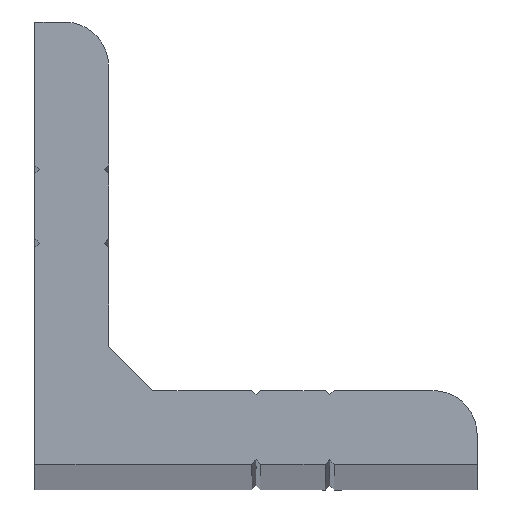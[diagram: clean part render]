
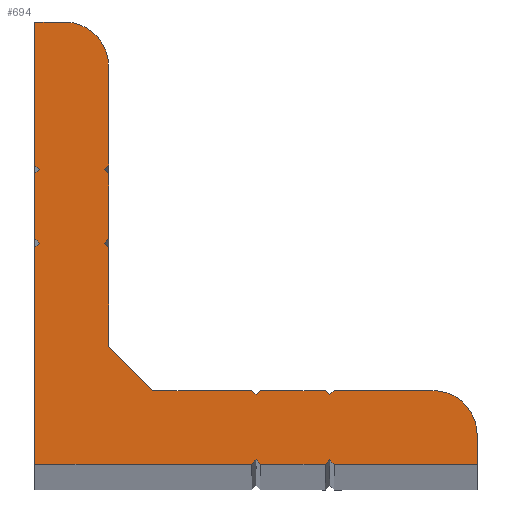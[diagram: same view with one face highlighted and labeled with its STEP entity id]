
A CAD part, top view. The second image highlights one B-rep face of the part: STEP entity #694.
In plain terms, the highlighted planar face has unit normal (0, 0, 1).
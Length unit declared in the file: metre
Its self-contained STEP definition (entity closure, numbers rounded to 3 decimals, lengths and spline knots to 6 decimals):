
#14=CIRCLE('',#726,0.003);
#16=CIRCLE('',#732,0.003);
#38=FACE_OUTER_BOUND('',#73,.T.);
#73=EDGE_LOOP('',(#546,#547,#548,#549,#550,#551,#552,#553,#554,#555,#556,
#557,#558,#559,#560,#561,#562,#563,#564,#565,#566,#567,#568,#569,#570,#571,
#572,#573,#574,#575,#576,#577,#578));
#90=LINE('',#932,#185);
#94=LINE('',#941,#189);
#98=LINE('',#950,#193);
#104=LINE('',#963,#199);
#109=LINE('',#973,#204);
#113=LINE('',#982,#208);
#115=LINE('',#988,#210);
#121=LINE('',#1000,#216);
#123=LINE('',#1005,#218);
#127=LINE('',#1014,#222);
#129=LINE('',#1018,#224);
#134=LINE('',#1032,#229);
#136=LINE('',#1035,#231);
#139=LINE('',#1042,#234);
#143=LINE('',#1053,#238);
#161=LINE('',#1082,#256);
#162=LINE('',#1083,#257);
#163=LINE('',#1085,#258);
#164=LINE('',#1086,#259);
#165=LINE('',#1088,#260);
#166=LINE('',#1089,#261);
#167=LINE('',#1091,#262);
#168=LINE('',#1092,#263);
#169=LINE('',#1094,#264);
#170=LINE('',#1095,#265);
#171=LINE('',#1097,#266);
#172=LINE('',#1098,#267);
#173=LINE('',#1100,#268);
#174=LINE('',#1101,#269);
#175=LINE('',#1103,#270);
#176=LINE('',#1104,#271);
#185=VECTOR('',#757,0.0044);
#189=VECTOR('',#763,0.0067);
#193=VECTOR('',#769,0.0147);
#199=VECTOR('',#777,0.0044);
#204=VECTOR('',#784,0.0097);
#208=VECTOR('',#790,0.0044);
#210=VECTOR('',#794,0.0044);
#216=VECTOR('',#802,0.0067);
#218=VECTOR('',#806,0.0147);
#222=VECTOR('',#812,0.0097);
#224=VECTOR('',#816,0.002);
#229=VECTOR('',#829,0.0067);
#231=VECTOR('',#833,0.004243);
#234=VECTOR('',#838,0.0067);
#238=VECTOR('',#850,0.002);
#256=VECTOR('',#872,0.000424);
#257=VECTOR('',#873,0.000424);
#258=VECTOR('',#874,0.000424);
#259=VECTOR('',#875,0.000424);
#260=VECTOR('',#876,0.000424);
#261=VECTOR('',#877,0.000424);
#262=VECTOR('',#878,0.000424);
#263=VECTOR('',#879,0.000424);
#264=VECTOR('',#880,0.000424);
#265=VECTOR('',#881,0.000424);
#266=VECTOR('',#882,0.000424);
#267=VECTOR('',#883,0.000424);
#268=VECTOR('',#884,0.000424);
#269=VECTOR('',#885,0.000424);
#270=VECTOR('',#886,0.000424);
#271=VECTOR('',#887,0.000424);
#280=VERTEX_POINT('',#930);
#281=VERTEX_POINT('',#931);
#284=VERTEX_POINT('',#939);
#285=VERTEX_POINT('',#940);
#288=VERTEX_POINT('',#948);
#289=VERTEX_POINT('',#949);
#294=VERTEX_POINT('',#960);
#295=VERTEX_POINT('',#962);
#296=VERTEX_POINT('',#966);
#299=VERTEX_POINT('',#971);
#300=VERTEX_POINT('',#975);
#303=VERTEX_POINT('',#980);
#304=VERTEX_POINT('',#984);
#306=VERTEX_POINT('',#987);
#308=VERTEX_POINT('',#993);
#311=VERTEX_POINT('',#998);
#312=VERTEX_POINT('',#1002);
#316=VERTEX_POINT('',#1011);
#317=VERTEX_POINT('',#1013);
#318=VERTEX_POINT('',#1017);
#322=VERTEX_POINT('',#1029);
#323=VERTEX_POINT('',#1031);
#324=VERTEX_POINT('',#1038);
#326=VERTEX_POINT('',#1041);
#328=VERTEX_POINT('',#1047);
#338=VERTEX_POINT('',#1081);
#339=VERTEX_POINT('',#1084);
#340=VERTEX_POINT('',#1087);
#341=VERTEX_POINT('',#1090);
#342=VERTEX_POINT('',#1093);
#343=VERTEX_POINT('',#1096);
#344=VERTEX_POINT('',#1099);
#345=VERTEX_POINT('',#1102);
#346=EDGE_CURVE('',#280,#281,#90,.T.);
#350=EDGE_CURVE('',#284,#285,#94,.T.);
#354=EDGE_CURVE('',#288,#289,#98,.T.);
#360=EDGE_CURVE('',#294,#295,#104,.T.);
#365=EDGE_CURVE('',#296,#299,#109,.T.);
#369=EDGE_CURVE('',#300,#303,#113,.T.);
#371=EDGE_CURVE('',#306,#304,#115,.T.);
#377=EDGE_CURVE('',#308,#311,#121,.T.);
#379=EDGE_CURVE('',#288,#312,#123,.T.);
#383=EDGE_CURVE('',#316,#317,#127,.T.);
#385=EDGE_CURVE('',#317,#318,#129,.T.);
#388=EDGE_CURVE('',#284,#318,#14,.F.);
#392=EDGE_CURVE('',#322,#323,#134,.T.);
#394=EDGE_CURVE('',#311,#323,#136,.T.);
#397=EDGE_CURVE('',#326,#324,#139,.T.);
#400=EDGE_CURVE('',#326,#328,#16,.T.);
#403=EDGE_CURVE('',#299,#328,#143,.T.);
#421=EDGE_CURVE('',#322,#338,#161,.T.);
#422=EDGE_CURVE('',#338,#281,#162,.T.);
#423=EDGE_CURVE('',#280,#339,#163,.T.);
#424=EDGE_CURVE('',#339,#285,#164,.T.);
#425=EDGE_CURVE('',#316,#340,#165,.T.);
#426=EDGE_CURVE('',#340,#295,#166,.T.);
#427=EDGE_CURVE('',#294,#341,#167,.T.);
#428=EDGE_CURVE('',#341,#289,#168,.T.);
#429=EDGE_CURVE('',#312,#342,#169,.T.);
#430=EDGE_CURVE('',#342,#306,#170,.T.);
#431=EDGE_CURVE('',#304,#343,#171,.T.);
#432=EDGE_CURVE('',#343,#296,#172,.T.);
#433=EDGE_CURVE('',#324,#344,#173,.T.);
#434=EDGE_CURVE('',#344,#300,#174,.T.);
#435=EDGE_CURVE('',#303,#345,#175,.T.);
#436=EDGE_CURVE('',#345,#308,#176,.T.);
#546=ORIENTED_EDGE('',*,*,#421,.T.);
#547=ORIENTED_EDGE('',*,*,#422,.T.);
#548=ORIENTED_EDGE('',*,*,#346,.F.);
#549=ORIENTED_EDGE('',*,*,#423,.T.);
#550=ORIENTED_EDGE('',*,*,#424,.T.);
#551=ORIENTED_EDGE('',*,*,#350,.F.);
#552=ORIENTED_EDGE('',*,*,#388,.T.);
#553=ORIENTED_EDGE('',*,*,#385,.F.);
#554=ORIENTED_EDGE('',*,*,#383,.F.);
#555=ORIENTED_EDGE('',*,*,#425,.T.);
#556=ORIENTED_EDGE('',*,*,#426,.T.);
#557=ORIENTED_EDGE('',*,*,#360,.F.);
#558=ORIENTED_EDGE('',*,*,#427,.T.);
#559=ORIENTED_EDGE('',*,*,#428,.T.);
#560=ORIENTED_EDGE('',*,*,#354,.F.);
#561=ORIENTED_EDGE('',*,*,#379,.T.);
#562=ORIENTED_EDGE('',*,*,#429,.T.);
#563=ORIENTED_EDGE('',*,*,#430,.T.);
#564=ORIENTED_EDGE('',*,*,#371,.T.);
#565=ORIENTED_EDGE('',*,*,#431,.T.);
#566=ORIENTED_EDGE('',*,*,#432,.T.);
#567=ORIENTED_EDGE('',*,*,#365,.T.);
#568=ORIENTED_EDGE('',*,*,#403,.T.);
#569=ORIENTED_EDGE('',*,*,#400,.F.);
#570=ORIENTED_EDGE('',*,*,#397,.T.);
#571=ORIENTED_EDGE('',*,*,#433,.T.);
#572=ORIENTED_EDGE('',*,*,#434,.T.);
#573=ORIENTED_EDGE('',*,*,#369,.T.);
#574=ORIENTED_EDGE('',*,*,#435,.T.);
#575=ORIENTED_EDGE('',*,*,#436,.T.);
#576=ORIENTED_EDGE('',*,*,#377,.T.);
#577=ORIENTED_EDGE('',*,*,#394,.T.);
#578=ORIENTED_EDGE('',*,*,#392,.F.);
#659=PLANE('',#736);
#694=ADVANCED_FACE('',(#38),#659,.F.);
#726=AXIS2_PLACEMENT_3D('',#1023,#821,#822);
#732=AXIS2_PLACEMENT_3D('',#1048,#843,#844);
#736=AXIS2_PLACEMENT_3D('',#1080,#870,#871);
#757=DIRECTION('',(0.,-1.,0.));
#763=DIRECTION('',(0.,-1.,0.));
#769=DIRECTION('',(0.,1.,0.));
#777=DIRECTION('',(0.,1.,0.));
#784=DIRECTION('',(1.,0.,0.));
#790=DIRECTION('',(-1.,0.,0.));
#794=DIRECTION('',(1.,0.,0.));
#802=DIRECTION('',(-1.,0.,0.));
#806=DIRECTION('',(1.,0.,0.));
#812=DIRECTION('',(0.,1.,0.));
#816=DIRECTION('',(1.,0.,0.));
#821=DIRECTION('center_axis',(0.,0.,-1.));
#822=DIRECTION('ref_axis',(-1.,0.,0.));
#829=DIRECTION('',(0.,-1.,0.));
#833=DIRECTION('',(-0.707,0.707,0.));
#838=DIRECTION('',(-1.,0.,0.));
#843=DIRECTION('center_axis',(0.,0.,-1.));
#844=DIRECTION('ref_axis',(-1.,0.,0.));
#850=DIRECTION('',(0.,1.,0.));
#870=DIRECTION('center_axis',(0.,0.,-1.));
#871=DIRECTION('ref_axis',(-1.,0.,0.));
#872=DIRECTION('',(-0.707,0.707,0.));
#873=DIRECTION('',(0.707,0.707,0.));
#874=DIRECTION('',(-0.707,0.707,0.));
#875=DIRECTION('',(0.707,0.707,0.));
#876=DIRECTION('',(0.707,-0.707,0.));
#877=DIRECTION('',(-0.707,-0.707,0.));
#878=DIRECTION('',(0.707,-0.707,0.));
#879=DIRECTION('',(-0.707,-0.707,0.));
#880=DIRECTION('',(0.707,0.707,0.));
#881=DIRECTION('',(0.707,-0.707,0.));
#882=DIRECTION('',(0.707,0.707,0.));
#883=DIRECTION('',(0.707,-0.707,0.));
#884=DIRECTION('',(-0.707,-0.707,0.));
#885=DIRECTION('',(-0.707,0.707,0.));
#886=DIRECTION('',(-0.707,-0.707,0.));
#887=DIRECTION('',(-0.707,0.707,0.));
#930=CARTESIAN_POINT('',(0.005,0.0197,1.));
#931=CARTESIAN_POINT('',(0.005,0.0153,1.));
#932=CARTESIAN_POINT('',(0.005,0.0197,1.));
#939=CARTESIAN_POINT('',(0.005,0.027,1.));
#940=CARTESIAN_POINT('',(0.005,0.0203,1.));
#941=CARTESIAN_POINT('',(0.005,0.027,1.));
#948=CARTESIAN_POINT('',(0.,0.,1.));
#949=CARTESIAN_POINT('',(0.,0.0147,1.));
#950=CARTESIAN_POINT('',(0.,0.,1.));
#960=CARTESIAN_POINT('',(0.,0.0153,1.));
#962=CARTESIAN_POINT('',(0.,0.0197,1.));
#963=CARTESIAN_POINT('',(0.,0.0153,1.));
#966=CARTESIAN_POINT('',(0.0203,0.,1.));
#971=CARTESIAN_POINT('',(0.03,0.,1.));
#973=CARTESIAN_POINT('',(0.0203,0.,1.));
#975=CARTESIAN_POINT('',(0.0197,0.005,1.));
#980=CARTESIAN_POINT('',(0.0153,0.005,1.));
#982=CARTESIAN_POINT('',(0.0197,0.005,1.));
#984=CARTESIAN_POINT('',(0.0197,0.,1.));
#987=CARTESIAN_POINT('',(0.0153,0.,1.));
#988=CARTESIAN_POINT('',(0.0153,0.,1.));
#993=CARTESIAN_POINT('',(0.0147,0.005,1.));
#998=CARTESIAN_POINT('',(0.008,0.005,1.));
#1000=CARTESIAN_POINT('',(0.0147,0.005,1.));
#1002=CARTESIAN_POINT('',(0.0147,0.,1.));
#1005=CARTESIAN_POINT('',(0.,0.,1.));
#1011=CARTESIAN_POINT('',(0.,0.0203,1.));
#1013=CARTESIAN_POINT('',(0.,0.03,1.));
#1014=CARTESIAN_POINT('',(0.,0.0203,1.));
#1017=CARTESIAN_POINT('',(0.002,0.03,1.));
#1018=CARTESIAN_POINT('',(0.,0.03,1.));
#1023=CARTESIAN_POINT('Origin',(0.002,0.027,1.));
#1029=CARTESIAN_POINT('',(0.005,0.0147,1.));
#1031=CARTESIAN_POINT('',(0.005,0.008,1.));
#1032=CARTESIAN_POINT('',(0.005,0.0147,1.));
#1035=CARTESIAN_POINT('',(0.008,0.005,1.));
#1038=CARTESIAN_POINT('',(0.0203,0.005,1.));
#1041=CARTESIAN_POINT('',(0.027,0.005,1.));
#1042=CARTESIAN_POINT('',(0.027,0.005,1.));
#1047=CARTESIAN_POINT('',(0.03,0.002,1.));
#1048=CARTESIAN_POINT('Origin',(0.027,0.002,1.));
#1053=CARTESIAN_POINT('',(0.03,0.,1.));
#1080=CARTESIAN_POINT('Origin',(0.,0.,1.));
#1081=CARTESIAN_POINT('',(0.0047,0.015,1.));
#1082=CARTESIAN_POINT('',(0.005,0.0147,1.));
#1083=CARTESIAN_POINT('',(0.0047,0.015,1.));
#1084=CARTESIAN_POINT('',(0.0047,0.02,1.));
#1085=CARTESIAN_POINT('',(0.005,0.0197,1.));
#1086=CARTESIAN_POINT('',(0.0047,0.02,1.));
#1087=CARTESIAN_POINT('',(0.0003,0.02,1.));
#1088=CARTESIAN_POINT('',(0.,0.0203,1.));
#1089=CARTESIAN_POINT('',(0.0003,0.02,1.));
#1090=CARTESIAN_POINT('',(0.0003,0.015,1.));
#1091=CARTESIAN_POINT('',(0.,0.0153,1.));
#1092=CARTESIAN_POINT('',(0.0003,0.015,1.));
#1093=CARTESIAN_POINT('',(0.015,0.0003,1.));
#1094=CARTESIAN_POINT('',(0.0147,0.,1.));
#1095=CARTESIAN_POINT('',(0.015,0.0003,1.));
#1096=CARTESIAN_POINT('',(0.02,0.0003,1.));
#1097=CARTESIAN_POINT('',(0.0197,0.,1.));
#1098=CARTESIAN_POINT('',(0.02,0.0003,1.));
#1099=CARTESIAN_POINT('',(0.02,0.0047,1.));
#1100=CARTESIAN_POINT('',(0.0203,0.005,1.));
#1101=CARTESIAN_POINT('',(0.02,0.0047,1.));
#1102=CARTESIAN_POINT('',(0.015,0.0047,1.));
#1103=CARTESIAN_POINT('',(0.0153,0.005,1.));
#1104=CARTESIAN_POINT('',(0.015,0.0047,1.));
